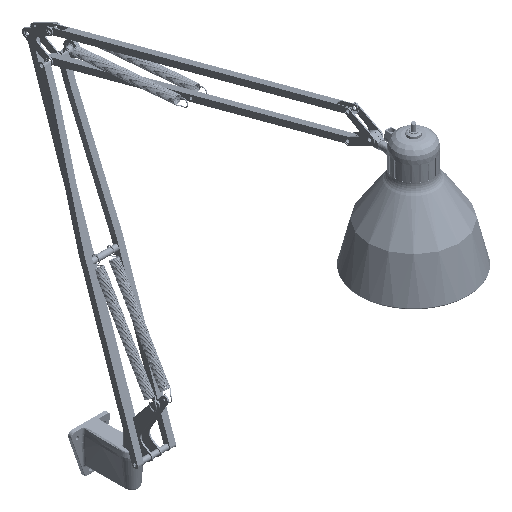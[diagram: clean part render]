
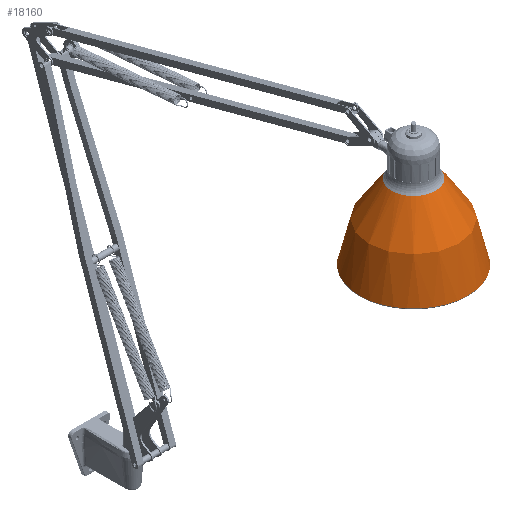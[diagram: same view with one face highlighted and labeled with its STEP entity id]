
A CAD part, isometric view. The second image highlights one B-rep face of the part: STEP entity #18160.
In plain terms, the highlighted free-form (B-spline) face has degree [2, 2] with [3, 9] control points.
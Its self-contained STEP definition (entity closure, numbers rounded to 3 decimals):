
#42=(
BOUNDED_SURFACE()
B_SPLINE_SURFACE(2,2,((#77416,#77417,#77418,#77419,#77420,#77421,#77422,
#77423,#77424),(#77425,#77426,#77427,#77428,#77429,#77430,#77431,#77432,
#77433),(#77434,#77435,#77436,#77437,#77438,#77439,#77440,#77441,#77442)),
 .UNSPECIFIED.,.F.,.T.,.F.)
B_SPLINE_SURFACE_WITH_KNOTS((3,3),(3,2,2,2,3),(0.045,0.773),
(-3.142,-1.571,0.,1.571,3.142),
 .UNSPECIFIED.)
GEOMETRIC_REPRESENTATION_ITEM()
RATIONAL_B_SPLINE_SURFACE(((1.,0.707,1.,0.707,1.,
0.707,1.,0.707,1.),(0.935,0.661,
0.935,0.661,0.935,0.661,
0.935,0.661,0.935),(1.,0.707,
1.,0.707,1.,0.707,1.,0.707,1.)))
REPRESENTATION_ITEM('')
SURFACE()
);
#4429=FACE_OUTER_BOUND('',#5510,.T.);
#5510=EDGE_LOOP('',(#14477,#14478,#14479,#14480,#14481,#14482));
#6527=CIRCLE('',#19724,32.327);
#6528=CIRCLE('',#19725,32.327);
#6529=CIRCLE('',#19726,168.5);
#6530=CIRCLE('',#19727,80.);
#6531=CIRCLE('',#19728,80.);
#8110=VERTEX_POINT('',#77443);
#8111=VERTEX_POINT('',#77444);
#8112=VERTEX_POINT('',#77447);
#8113=VERTEX_POINT('',#77449);
#10402=EDGE_CURVE('',#8110,#8111,#6527,.T.);
#10403=EDGE_CURVE('',#8111,#8110,#6528,.T.);
#10404=EDGE_CURVE('',#8111,#8112,#6529,.T.);
#10405=EDGE_CURVE('',#8112,#8113,#6530,.T.);
#10406=EDGE_CURVE('',#8113,#8112,#6531,.T.);
#14477=ORIENTED_EDGE('',*,*,#10402,.F.);
#14478=ORIENTED_EDGE('',*,*,#10403,.F.);
#14479=ORIENTED_EDGE('',*,*,#10404,.T.);
#14480=ORIENTED_EDGE('',*,*,#10405,.T.);
#14481=ORIENTED_EDGE('',*,*,#10406,.T.);
#14482=ORIENTED_EDGE('',*,*,#10404,.F.);
#18160=ADVANCED_FACE('',(#4429),#42,.F.);
#19724=AXIS2_PLACEMENT_3D('',#77445,#23689,#23690);
#19725=AXIS2_PLACEMENT_3D('',#77446,#23691,#23692);
#19726=AXIS2_PLACEMENT_3D('',#77448,#23693,#23694);
#19727=AXIS2_PLACEMENT_3D('',#77450,#23695,#23696);
#19728=AXIS2_PLACEMENT_3D('',#77451,#23697,#23698);
#23689=DIRECTION('center_axis',(0.,0.,
1.));
#23690=DIRECTION('ref_axis',(-1.,0.,0.));
#23691=DIRECTION('center_axis',(0.,0.,
1.));
#23692=DIRECTION('ref_axis',(-1.,0.,0.));
#23693=DIRECTION('center_axis',(0.,1.,0.));
#23694=DIRECTION('ref_axis',(1.,0.,0.));
#23695=DIRECTION('center_axis',(0.,0.,
1.));
#23696=DIRECTION('ref_axis',(-1.,0.,0.));
#23697=DIRECTION('center_axis',(0.,0.,
1.));
#23698=DIRECTION('ref_axis',(-1.,0.,0.));
#77416=CARTESIAN_POINT('Ctrl Pts',(79.3,-481.644,500.152));
#77417=CARTESIAN_POINT('Ctrl Pts',(79.3,-401.644,500.152));
#77418=CARTESIAN_POINT('Ctrl Pts',(-0.7,-401.644,
500.152));
#77419=CARTESIAN_POINT('Ctrl Pts',(-80.7,-401.644,
500.152));
#77420=CARTESIAN_POINT('Ctrl Pts',(-80.7,-481.644,
500.152));
#77421=CARTESIAN_POINT('Ctrl Pts',(-80.7,-561.644,
500.152));
#77422=CARTESIAN_POINT('Ctrl Pts',(-0.7,-561.644,
500.152));
#77423=CARTESIAN_POINT('Ctrl Pts',(79.3,-561.644,500.152));
#77424=CARTESIAN_POINT('Ctrl Pts',(79.3,-481.644,500.152));
#77425=CARTESIAN_POINT('Ctrl Pts',(76.415,-481.644,564.251));
#77426=CARTESIAN_POINT('Ctrl Pts',(76.415,-404.529,564.251));
#77427=CARTESIAN_POINT('Ctrl Pts',(-0.7,-404.529,
564.251));
#77428=CARTESIAN_POINT('Ctrl Pts',(-77.815,-404.529,564.251));
#77429=CARTESIAN_POINT('Ctrl Pts',(-77.815,-481.644,
564.251));
#77430=CARTESIAN_POINT('Ctrl Pts',(-77.815,-558.759,
564.251));
#77431=CARTESIAN_POINT('Ctrl Pts',(-0.7,-558.759,
564.251));
#77432=CARTESIAN_POINT('Ctrl Pts',(76.415,-558.759,564.251));
#77433=CARTESIAN_POINT('Ctrl Pts',(76.415,-481.644,564.251));
#77434=CARTESIAN_POINT('Ctrl Pts',(31.627,-481.644,610.196));
#77435=CARTESIAN_POINT('Ctrl Pts',(31.627,-449.317,610.196));
#77436=CARTESIAN_POINT('Ctrl Pts',(-0.7,-449.317,
610.196));
#77437=CARTESIAN_POINT('Ctrl Pts',(-33.027,-449.317,610.196));
#77438=CARTESIAN_POINT('Ctrl Pts',(-33.027,-481.644,610.196));
#77439=CARTESIAN_POINT('Ctrl Pts',(-33.027,-513.971,610.196));
#77440=CARTESIAN_POINT('Ctrl Pts',(-0.7,-513.971,
610.196));
#77441=CARTESIAN_POINT('Ctrl Pts',(31.627,-513.971,610.196));
#77442=CARTESIAN_POINT('Ctrl Pts',(31.627,-481.644,610.196));
#77443=CARTESIAN_POINT('',(-33.027,-481.644,610.196));
#77444=CARTESIAN_POINT('',(31.627,-481.644,610.196));
#77445=CARTESIAN_POINT('Origin',(-0.7,-481.644,610.196));
#77446=CARTESIAN_POINT('Origin',(-0.7,-481.644,610.196));
#77447=CARTESIAN_POINT('',(79.3,-481.644,500.152));
#77448=CARTESIAN_POINT('Origin',(-89.03,-481.644,492.577));
#77449=CARTESIAN_POINT('',(-80.7,-481.644,500.152));
#77450=CARTESIAN_POINT('Origin',(-0.7,-481.644,500.152));
#77451=CARTESIAN_POINT('Origin',(-0.7,-481.644,500.152));
